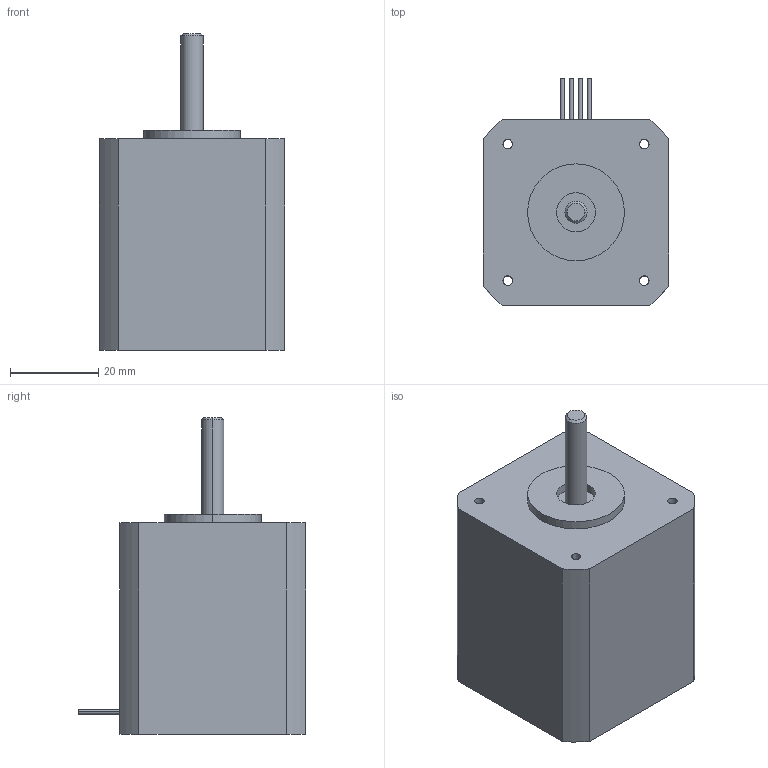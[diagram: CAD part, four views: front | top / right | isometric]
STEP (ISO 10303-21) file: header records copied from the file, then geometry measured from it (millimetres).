
FILE_DESCRIPTION((''),'2;1');
FILE_NAME('C:\Documents and Settings\rbadgerow\Desktop\webmodelmain\web step 3d\4118l\4118l s.stp','2005-05-12T07:17:00',('rbadgerow'),(''),'Autodesk Inventor 9','Autodesk Inventor 9','');
FILE_SCHEMA(('AUTOMOTIVE_DESIGN { 1 0 10303 214 1 1 1 1 }'));
Length unit declared in the file: inch
Products named in the file (1): 4118l s
Bounding box: 42.16 x 51.56 x 71.88 mm (x, y, z)
Volume: 84077.9 mm3; surface area: 13077.1 mm2
Topology: 1 solids, 1 shells, 44 faces, 100 edges, 66 vertices
Faces by surface type: cylinder 28, plane 14, cone 2
Entity records: 1307 total; most frequent: DIRECTION 248, CARTESIAN_POINT 211, ORIENTED_EDGE 200, AXIS2_PLACEMENT_3D 103, EDGE_CURVE 100, VERTEX_POINT 66, EDGE_LOOP 60, CIRCLE 58
